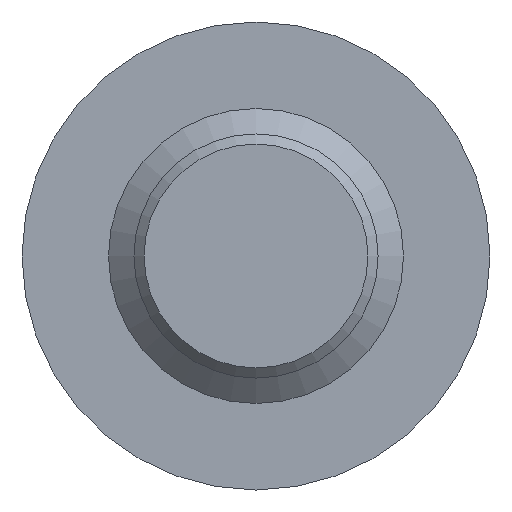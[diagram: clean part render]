
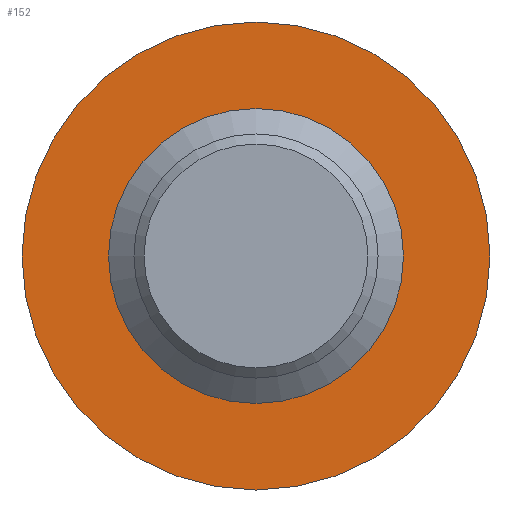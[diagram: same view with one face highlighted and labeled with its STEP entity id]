
A CAD part, front view. The second image highlights one B-rep face of the part: STEP entity #152.
In plain terms, the highlighted planar face has unit normal (0, -1, 0).
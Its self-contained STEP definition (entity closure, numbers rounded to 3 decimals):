
#15=FACE_BOUND('',#57,.T.);
#21=PLANE('',#195);
#45=FACE_OUTER_BOUND('',#56,.T.);
#56=EDGE_LOOP('',(#129));
#57=EDGE_LOOP('',(#130));
#67=CIRCLE('',#186,11.5);
#72=CIRCLE('',#196,6.95);
#79=VERTEX_POINT('',#270);
#84=VERTEX_POINT('',#288);
#93=EDGE_CURVE('',#79,#79,#67,.T.);
#100=EDGE_CURVE('',#84,#84,#72,.T.);
#129=ORIENTED_EDGE('',*,*,#93,.F.);
#130=ORIENTED_EDGE('',*,*,#100,.F.);
#152=ADVANCED_FACE('',(#45,#15),#21,.F.);
#186=AXIS2_PLACEMENT_3D('',#272,#219,#220);
#195=AXIS2_PLACEMENT_3D('',#287,#239,#240);
#196=AXIS2_PLACEMENT_3D('',#289,#241,#242);
#219=DIRECTION('center_axis',(0.,1.,0.));
#220=DIRECTION('ref_axis',(1.,0.,0.));
#239=DIRECTION('center_axis',(0.,1.,0.));
#240=DIRECTION('ref_axis',(0.,0.,1.));
#241=DIRECTION('center_axis',(0.,-1.,0.));
#242=DIRECTION('ref_axis',(1.,0.,0.));
#270=CARTESIAN_POINT('',(-11.5,25.,0.));
#272=CARTESIAN_POINT('Origin',(0.,25.,0.));
#287=CARTESIAN_POINT('Origin',(0.,25.,0.));
#288=CARTESIAN_POINT('',(-6.95,25.,0.));
#289=CARTESIAN_POINT('Origin',(0.,25.,0.));
